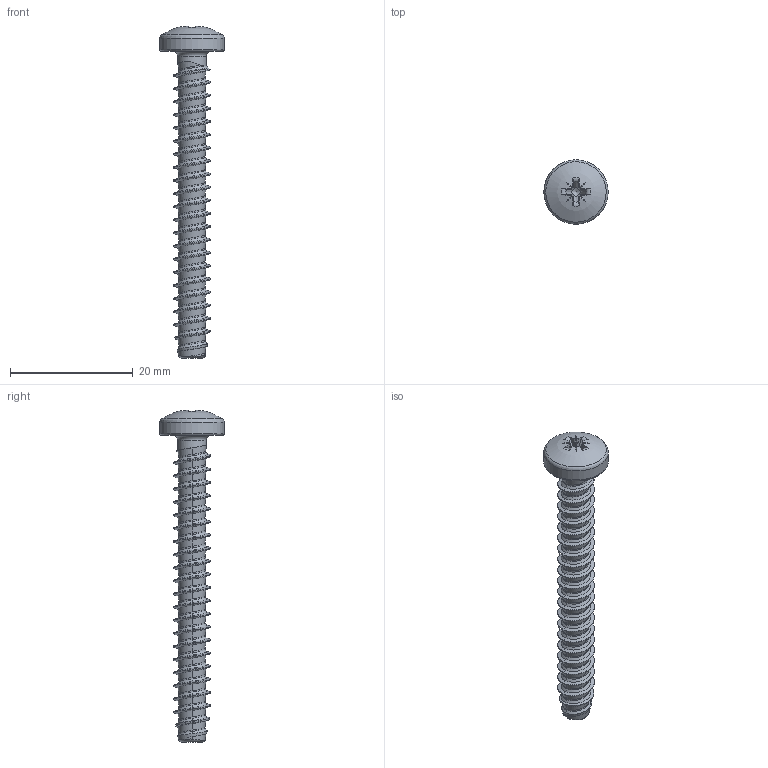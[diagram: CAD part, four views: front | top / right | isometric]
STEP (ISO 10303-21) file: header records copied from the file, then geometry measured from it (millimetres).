
FILE_DESCRIPTION(/* description */ (''),/* implementation_level */ '2;1');
FILE_NAME(/* name */ 'KN6032-STSplus-60x50-Z3.step',/* time_stamp */ '2017-10-10T16:28:00+02:00',/* author */ (''),/* organization */ (''),/* preprocessor_version */ 'ST-DEVELOPER v16',/* originating_system */ 'SIEMENS PLM Software NX 10.0',/* authorisation */ '');
FILE_SCHEMA (('AUTOMOTIVE_DESIGN { 1 0 10303 214 3 1 1 1 }'));
Length unit declared in the file: millimetre
Products named in the file (1): KN6032-STSplus-60x50-Z3
Bounding box: 10.5 x 10.5 x 54.14 mm (x, y, z)
Volume: 1137.5 mm3; surface area: 1380 mm2
Topology: 1 solids, 1 shells, 185 faces, 434 edges, 251 vertices
Faces by surface type: bspline 116, plane 42, cylinder 11, torus 8, cone 7, sphere 1
Full cylindrical faces by diameter (mm): 4.68 x1, 10.5 x1
Entity records: 11441 total; most frequent: CARTESIAN_POINT 8010, ORIENTED_EDGE 840, DIRECTION 422, EDGE_CURVE 420, VERTEX_POINT 246, EDGE_LOOP 193, B_SPLINE_CURVE_WITH_KNOTS 193, ADVANCED_FACE 185
